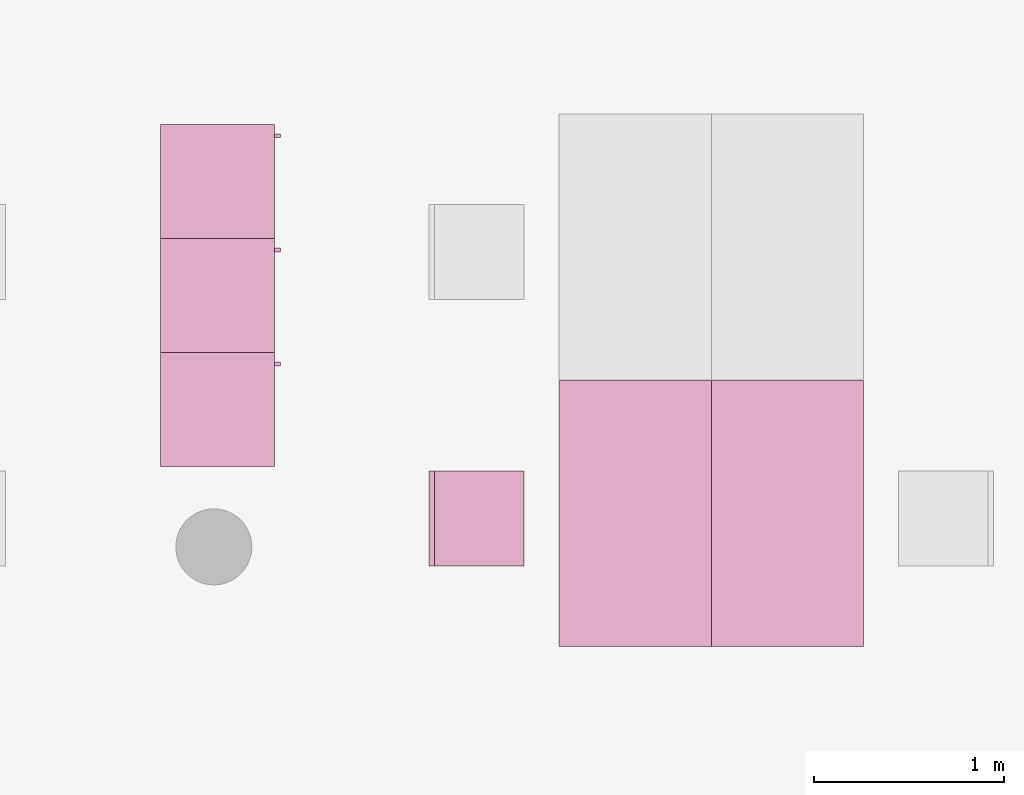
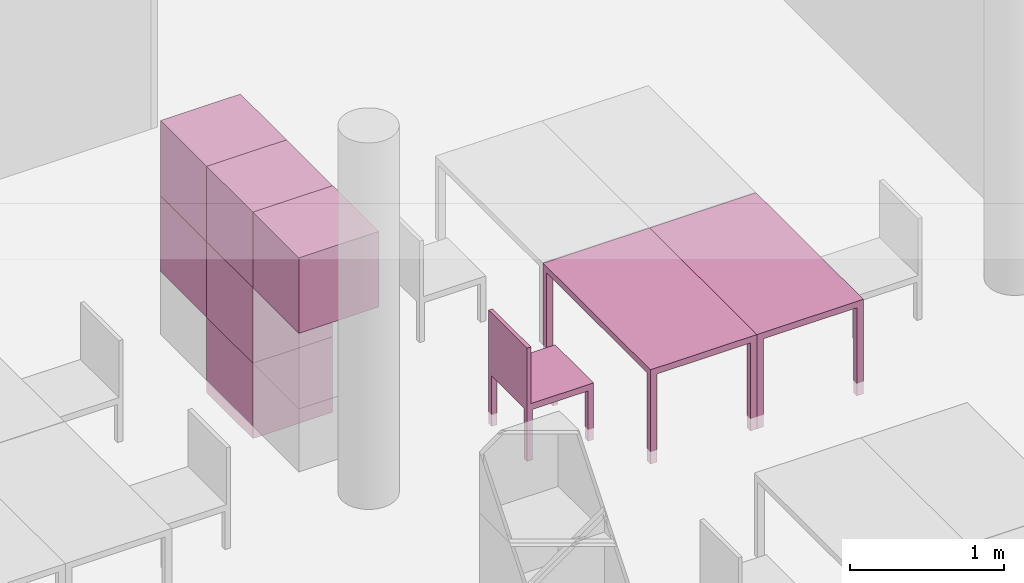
"""IFC4 building model written with IfcOpenShell, lengths in metres."""

from ifc_helpers import new_model, entity, si_unit, converted_unit, derived_unit, frame, origin, place, context, subcontext, project, spatial, faceted_brep, element, save


model = new_model("IFC4")

# Units and contexts
model_context = context("Model", 3, precision=1e-05, world=origin())
body_context = subcontext(model_context, "Body", "Model", "MODEL_VIEW")
ifc_project = project(units=[si_unit("LENGTHUNIT", "METRE"), si_unit("AREAUNIT", "SQUARE_METRE"), si_unit("VOLUMEUNIT", "CUBIC_METRE"), si_unit("MASSUNIT", "GRAM", prefix="KILO"), converted_unit("PLANEANGLEUNIT", "DEGREE", entity("IfcPlaneAngleMeasure", 0.0174532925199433), si_unit("PLANEANGLEUNIT", "RADIAN"), dimensions=[0, 0, 0, 0, 0, 0, 0]), derived_unit("THERMALTRANSMITTANCEUNIT", [(si_unit("POWERUNIT", "WATT"), 1), (si_unit("THERMODYNAMICTEMPERATUREUNIT", "KELVIN"), -1), (si_unit("LENGTHUNIT", "METRE"), -2)]), derived_unit("VOLUMETRICFLOWRATEUNIT", [(si_unit("LENGTHUNIT", "METRE"), 3), (converted_unit("TIMEUNIT", "hour", entity("IfcTimeMeasure", 3600.0), si_unit("TIMEUNIT", "SECOND"), dimensions=[0, 0, 1, 0, 0, 0, 0]), -1), (si_unit("LENGTHUNIT", "METRE"), -1)])], contexts=[model_context])

# Building, storeys
building_placement = place(None, origin())
building = spatial("IfcBuilding", under=ifc_project, at=building_placement, Name="HABITATGE PLURIFAMILIAR", CompositionType="ELEMENT")
storey_1_placement = place(building_placement, frame((0.0, 0.0, 12.27)))
storey_1 = spatial("IfcBuildingStorey", under=building, at=storey_1_placement, Name="PLANTA TERCERA", CompositionType="ELEMENT", Elevation=12.27)
storey_2_placement = place(storey_1_placement, frame((0.0, 0.0, 9.26)))
storey_2 = spatial("IfcBuildingStorey", under=storey_1, at=storey_2_placement, Name="NOU", CompositionType="PARTIAL")

# Furniture
furniture_1_placement = place(storey_2_placement, frame((418.75287675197, 17.2768712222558, -9.3599999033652)))
element("IfcFurniture", 1, at=furniture_1_placement, inside=storey_2, Name="Taula 140X80_P3", context=body_context, shape_type="Brep", body=[
    faceted_brep([(0.05, 0.0437500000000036, 0.0), (0.0, 0.04375, 0.0), (0.0, 0.0, 0.0), (0.05, 0.0, 0.0), (0.0, 0.04375, 0.7), (0.05, 0.0437500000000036, 0.7), (0.05, 0.0, 0.7), (0.0, 0.0, 0.7)], [[[0, 1, 2, 3]], [[4, 5, 6, 7]], [[1, 0, 5, 4]], [[2, 1, 4, 7]], [[3, 2, 7, 6]], [[0, 3, 6, 5]]], orient=[[False], [False], [False], [False], [False], [False]]),
    faceted_brep([(0.800069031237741, 0.0437500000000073, 0.0), (0.750069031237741, 0.0437500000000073, 0.0), (0.750069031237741, 0.0, 0.0), (0.800069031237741, 0.0, 0.0), (0.750069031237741, 0.0437500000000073, 0.7), (0.800069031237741, 0.0437500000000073, 0.7), (0.800069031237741, 0.0, 0.7), (0.750069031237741, 0.0, 0.7)], [[[0, 1, 2, 3]], [[4, 5, 6, 7]], [[1, 0, 5, 4]], [[2, 1, 4, 7]], [[3, 2, 7, 6]], [[0, 3, 6, 5]]], orient=[[False], [False], [False], [False], [False], [False]]),
    faceted_brep([(0.800069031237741, 1.39732768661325, 0.7), (0.0, 1.39732768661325, 0.7), (0.0, 0.0, 0.7), (0.800069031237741, 0.0, 0.7), (0.0, 1.39732768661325, 0.75), (0.800069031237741, 1.39732768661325, 0.75), (0.800069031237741, 0.0, 0.75), (0.0, 0.0, 0.75)], [[[0, 1, 2, 3]], [[4, 5, 6, 7]], [[1, 0, 5, 4]], [[2, 1, 4, 7]], [[3, 2, 7, 6]], [[0, 3, 6, 5]]], orient=[[False], [False], [False], [False], [False], [False]]),
    faceted_brep([(0.05, 1.39732768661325, 0.0), (0.0, 1.39732768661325, 0.0), (0.0, 1.35357768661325, 0.0), (0.05, 1.35357768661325, 0.0), (0.0, 1.39732768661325, 0.7), (0.05, 1.39732768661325, 0.7), (0.05, 1.35357768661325, 0.7), (0.0, 1.35357768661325, 0.7)], [[[0, 1, 2, 3]], [[4, 5, 6, 7]], [[1, 0, 5, 4]], [[2, 1, 4, 7]], [[3, 2, 7, 6]], [[0, 3, 6, 5]]], orient=[[False], [False], [False], [False], [False], [False]]),
    faceted_brep([(0.800069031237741, 1.39732768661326, 0.0), (0.750069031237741, 1.39732768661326, 0.0), (0.750069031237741, 1.35357768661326, 0.0), (0.800069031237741, 1.35357768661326, 0.0), (0.750069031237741, 1.39732768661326, 0.7), (0.800069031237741, 1.39732768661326, 0.7), (0.800069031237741, 1.35357768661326, 0.7), (0.750069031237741, 1.35357768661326, 0.7)], [[[0, 1, 2, 3]], [[4, 5, 6, 7]], [[1, 0, 5, 4]], [[2, 1, 4, 7]], [[3, 2, 7, 6]], [[0, 3, 6, 5]]], orient=[[False], [False], [False], [False], [False], [False]]),
])
furniture_2_placement = place(storey_2_placement, frame((417.952807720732, 17.2768712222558, -9.3599999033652)))
element("IfcFurniture", 2, at=furniture_2_placement, inside=storey_2, Name="Taula 140X80_P3", context=body_context, shape_type="Brep", body=[
    faceted_brep([(0.750069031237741, 0.04375, 0.0), (0.750069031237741, 0.0, 0.0), (0.800069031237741, 0.0, 0.0), (0.800069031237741, 0.04375, 0.0), (0.800069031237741, 0.04375, 0.7), (0.800069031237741, 0.0, 0.7), (0.750069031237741, 0.0, 0.7), (0.750069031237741, 0.04375, 0.7)], [[[0, 1, 2, 3]], [[4, 5, 6, 7]], [[3, 4, 7, 0]], [[2, 5, 4, 3]], [[1, 6, 5, 2]], [[0, 7, 6, 1]]], orient=[[False], [False], [False], [False], [False], [False]]),
    faceted_brep([(0.0, 0.0437500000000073, 0.0), (0.0, 0.0, 0.0), (0.05, 0.0, 0.0), (0.05, 0.0437500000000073, 0.0), (0.05, 0.0437500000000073, 0.7), (0.05, 0.0, 0.7), (0.0, 0.0, 0.7), (0.0, 0.0437500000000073, 0.7)], [[[0, 1, 2, 3]], [[4, 5, 6, 7]], [[3, 4, 7, 0]], [[2, 5, 4, 3]], [[1, 6, 5, 2]], [[0, 7, 6, 1]]], orient=[[False], [False], [False], [False], [False], [False]]),
    faceted_brep([(0.0, 1.39732768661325, 0.7), (0.0, 0.0, 0.7), (0.800069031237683, 0.0, 0.7), (0.800069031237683, 1.39732768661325, 0.7), (0.800069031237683, 1.39732768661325, 0.75), (0.800069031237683, 0.0, 0.75), (0.0, 0.0, 0.75), (0.0, 1.39732768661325, 0.75)], [[[0, 1, 2, 3]], [[4, 5, 6, 7]], [[3, 4, 7, 0]], [[2, 5, 4, 3]], [[1, 6, 5, 2]], [[0, 7, 6, 1]]], orient=[[False], [False], [False], [False], [False], [False]]),
    faceted_brep([(0.750069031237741, 1.39732768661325, 0.0), (0.750069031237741, 1.35357768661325, 0.0), (0.800069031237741, 1.35357768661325, 0.0), (0.800069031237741, 1.39732768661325, 0.0), (0.800069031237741, 1.39732768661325, 0.7), (0.800069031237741, 1.35357768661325, 0.7), (0.750069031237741, 1.35357768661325, 0.7), (0.750069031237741, 1.39732768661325, 0.7)], [[[0, 1, 2, 3]], [[4, 5, 6, 7]], [[3, 4, 7, 0]], [[2, 5, 4, 3]], [[1, 6, 5, 2]], [[0, 7, 6, 1]]], orient=[[False], [False], [False], [False], [False], [False]]),
    faceted_brep([(0.0, 1.39732768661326, 0.0), (0.0, 1.35357768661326, 0.0), (0.05, 1.35357768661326, 0.0), (0.05, 1.39732768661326, 0.0), (0.05, 1.39732768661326, 0.7), (0.05, 1.35357768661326, 0.7), (0.0, 1.35357768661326, 0.7), (0.0, 1.39732768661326, 0.7)], [[[0, 1, 2, 3]], [[4, 5, 6, 7]], [[3, 4, 7, 0]], [[2, 5, 4, 3]], [[1, 6, 5, 2]], [[0, 7, 6, 1]]], orient=[[False], [False], [False], [False], [False], [False]]),
])
furniture_3_placement = place(storey_2_placement, frame((415.856984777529, 18.8211705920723, -9.3599999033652)))
element("IfcFurniture", 3, at=furniture_3_placement, inside=storey_2, Name="Armai 60x60x60_P3", context=body_context, shape_type="Brep", body=[
    faceted_brep([(0.6, 0.600000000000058, 0.02), (0.6, 0.600000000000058, 0.0), (0.6, 0.0, 0.0), (0.6, 0.0, 0.02), (0.0, 0.0, 0.0), (0.0, 0.0, 0.02), (0.0, 0.600000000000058, 0.0), (0.0, 0.600000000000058, 0.02)], [[[0, 1, 2, 3]], [[3, 2, 4, 5]], [[5, 4, 6, 7]], [[7, 6, 1, 0]], [[0, 3, 5, 7]], [[1, 6, 4, 2]]], orient=[[False], [False], [False], [False], [False], [False]]),
    faceted_brep([(0.0, 0.02, 0.58), (0.0200000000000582, 0.02, 0.58), (0.0200000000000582, 0.02, 0.02), (0.0, 0.02, 0.02), (0.0200000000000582, 0.58, 0.02), (0.0, 0.58, 0.02), (0.0200000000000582, 0.58, 0.58), (0.0, 0.58, 0.58)], [[[0, 1, 2, 3]], [[3, 2, 4, 5]], [[5, 4, 6, 7]], [[7, 6, 1, 0]], [[0, 3, 5, 7]], [[1, 6, 4, 2]]], orient=[[False], [False], [False], [False], [False], [False]]),
    faceted_brep([(0.6, 0.58, 0.58), (0.6, 0.6, 0.58), (0.6, 0.6, 0.02), (0.6, 0.58, 0.02), (0.0, 0.6, 0.02), (0.0, 0.58, 0.02), (0.0, 0.6, 0.58), (0.0, 0.58, 0.58)], [[[0, 1, 2, 3]], [[3, 2, 4, 5]], [[5, 4, 6, 7]], [[7, 6, 1, 0]], [[0, 3, 5, 7]], [[1, 6, 4, 2]]], orient=[[False], [False], [False], [False], [False], [False]]),
    faceted_brep([(0.58, 0.600000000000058, 0.58), (0.6, 0.600000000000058, 0.58), (0.6, 0.600000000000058, 0.02), (0.58, 0.600000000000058, 0.02), (0.6, 0.580000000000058, 0.02), (0.58, 0.580000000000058, 0.02), (0.6, 0.580000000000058, 0.58), (0.58, 0.580000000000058, 0.58)], [[[0, 1, 2, 3]], [[3, 2, 4, 5]], [[5, 4, 6, 7]], [[7, 6, 1, 0]], [[0, 3, 5, 7]], [[1, 6, 4, 2]]], orient=[[False], [False], [False], [False], [False], [False]]),
    faceted_brep([(0.6, 0.0, 0.58), (0.6, 0.0200000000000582, 0.58), (0.6, 0.0200000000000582, 0.02), (0.6, 0.0, 0.02), (0.0, 0.0200000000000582, 0.02), (0.0, 0.0, 0.02), (0.0, 0.0200000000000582, 0.58), (0.0, 0.0, 0.58)], [[[0, 1, 2, 3]], [[3, 2, 4, 5]], [[5, 4, 6, 7]], [[7, 6, 1, 0]], [[0, 3, 5, 7]], [[1, 6, 4, 2]]], orient=[[False], [False], [False], [False], [False], [False]]),
    faceted_brep([(0.600000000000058, 0.6, 0.6), (0.600000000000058, 0.6, 0.58), (0.600000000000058, 0.0, 0.58), (0.600000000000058, 0.0, 0.6), (0.0, 0.0, 0.58), (0.0, 0.0, 0.6), (0.0, 0.6, 0.58), (0.0, 0.6, 0.6)], [[[0, 1, 2, 3]], [[3, 2, 4, 5]], [[5, 4, 6, 7]], [[7, 6, 1, 0]], [[0, 3, 5, 7]], [[1, 6, 4, 2]]], orient=[[False], [False], [False], [False], [False], [False]]),
    faceted_brep([(0.580000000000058, 0.02, 0.58), (0.600000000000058, 0.02, 0.58), (0.600000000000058, 0.02, 0.02), (0.580000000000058, 0.02, 0.02), (0.600000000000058, 0.580000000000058, 0.02), (0.580000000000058, 0.580000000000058, 0.02), (0.600000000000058, 0.580000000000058, 0.58), (0.580000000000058, 0.580000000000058, 0.58)], [[[0, 1, 2, 3]], [[3, 2, 4, 5]], [[5, 4, 6, 7]], [[7, 6, 1, 0]], [[0, 3, 5, 7]], [[1, 6, 4, 2]]], orient=[[False], [False], [False], [False], [False], [False]]),
    faceted_brep([(0.600000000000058, 0.53, 0.358064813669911), (0.630000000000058, 0.53, 0.358064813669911), (0.630000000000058, 0.53, 0.258064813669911), (0.600000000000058, 0.53, 0.258064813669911), (0.630000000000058, 0.55, 0.258064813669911), (0.600000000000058, 0.55, 0.258064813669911), (0.630000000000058, 0.55, 0.358064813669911), (0.600000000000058, 0.55, 0.358064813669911)], [[[0, 1, 2, 3]], [[3, 2, 4, 5]], [[5, 4, 6, 7]], [[7, 6, 1, 0]], [[0, 3, 5, 7]], [[1, 6, 4, 2]]], orient=[[False], [False], [False], [False], [False], [False]]),
])
furniture_4_placement = place(storey_2_placement, frame((415.856984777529, 19.4211705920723, -8.7599999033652)))
element("IfcFurniture", 4, at=furniture_4_placement, inside=storey_2, Name="Armai 60x60x60_P3", context=body_context, shape_type="Brep", body=[
    faceted_brep([(0.6, 0.600000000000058, 0.02), (0.6, 0.600000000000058, 0.0), (0.6, 0.0, 0.0), (0.6, 0.0, 0.02), (0.0, 0.0, 0.0), (0.0, 0.0, 0.02), (0.0, 0.600000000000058, 0.0), (0.0, 0.600000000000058, 0.02)], [[[0, 1, 2, 3]], [[3, 2, 4, 5]], [[5, 4, 6, 7]], [[7, 6, 1, 0]], [[0, 3, 5, 7]], [[1, 6, 4, 2]]], orient=[[False], [False], [False], [False], [False], [False]]),
    faceted_brep([(0.0, 0.02, 0.58), (0.0200000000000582, 0.02, 0.58), (0.0200000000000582, 0.02, 0.02), (0.0, 0.02, 0.02), (0.0200000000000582, 0.58, 0.02), (0.0, 0.58, 0.02), (0.0200000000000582, 0.58, 0.58), (0.0, 0.58, 0.58)], [[[0, 1, 2, 3]], [[3, 2, 4, 5]], [[5, 4, 6, 7]], [[7, 6, 1, 0]], [[0, 3, 5, 7]], [[1, 6, 4, 2]]], orient=[[False], [False], [False], [False], [False], [False]]),
    faceted_brep([(0.6, 0.58, 0.58), (0.6, 0.6, 0.58), (0.6, 0.6, 0.02), (0.6, 0.58, 0.02), (0.0, 0.6, 0.02), (0.0, 0.58, 0.02), (0.0, 0.6, 0.58), (0.0, 0.58, 0.58)], [[[0, 1, 2, 3]], [[3, 2, 4, 5]], [[5, 4, 6, 7]], [[7, 6, 1, 0]], [[0, 3, 5, 7]], [[1, 6, 4, 2]]], orient=[[False], [False], [False], [False], [False], [False]]),
    faceted_brep([(0.58, 0.600000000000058, 0.58), (0.6, 0.600000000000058, 0.58), (0.6, 0.600000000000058, 0.02), (0.58, 0.600000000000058, 0.02), (0.6, 0.580000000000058, 0.02), (0.58, 0.580000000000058, 0.02), (0.6, 0.580000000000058, 0.58), (0.58, 0.580000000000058, 0.58)], [[[0, 1, 2, 3]], [[3, 2, 4, 5]], [[5, 4, 6, 7]], [[7, 6, 1, 0]], [[0, 3, 5, 7]], [[1, 6, 4, 2]]], orient=[[False], [False], [False], [False], [False], [False]]),
    faceted_brep([(0.6, 0.0, 0.58), (0.6, 0.0200000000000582, 0.58), (0.6, 0.0200000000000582, 0.02), (0.6, 0.0, 0.02), (0.0, 0.0200000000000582, 0.02), (0.0, 0.0, 0.02), (0.0, 0.0200000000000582, 0.58), (0.0, 0.0, 0.58)], [[[0, 1, 2, 3]], [[3, 2, 4, 5]], [[5, 4, 6, 7]], [[7, 6, 1, 0]], [[0, 3, 5, 7]], [[1, 6, 4, 2]]], orient=[[False], [False], [False], [False], [False], [False]]),
    faceted_brep([(0.600000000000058, 0.6, 0.6), (0.600000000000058, 0.6, 0.58), (0.600000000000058, 0.0, 0.58), (0.600000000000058, 0.0, 0.6), (0.0, 0.0, 0.58), (0.0, 0.0, 0.6), (0.0, 0.6, 0.58), (0.0, 0.6, 0.6)], [[[0, 1, 2, 3]], [[3, 2, 4, 5]], [[5, 4, 6, 7]], [[7, 6, 1, 0]], [[0, 3, 5, 7]], [[1, 6, 4, 2]]], orient=[[False], [False], [False], [False], [False], [False]]),
    faceted_brep([(0.580000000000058, 0.02, 0.58), (0.600000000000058, 0.02, 0.58), (0.600000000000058, 0.02, 0.02), (0.580000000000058, 0.02, 0.02), (0.600000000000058, 0.580000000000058, 0.02), (0.580000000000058, 0.580000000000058, 0.02), (0.600000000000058, 0.580000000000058, 0.58), (0.580000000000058, 0.580000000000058, 0.58)], [[[0, 1, 2, 3]], [[3, 2, 4, 5]], [[5, 4, 6, 7]], [[7, 6, 1, 0]], [[0, 3, 5, 7]], [[1, 6, 4, 2]]], orient=[[False], [False], [False], [False], [False], [False]]),
    faceted_brep([(0.600000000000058, 0.53, 0.358064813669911), (0.630000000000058, 0.53, 0.358064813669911), (0.630000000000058, 0.53, 0.258064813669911), (0.600000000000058, 0.53, 0.258064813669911), (0.630000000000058, 0.55, 0.258064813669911), (0.600000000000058, 0.55, 0.258064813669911), (0.630000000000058, 0.55, 0.358064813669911), (0.600000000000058, 0.55, 0.358064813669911)], [[[0, 1, 2, 3]], [[3, 2, 4, 5]], [[5, 4, 6, 7]], [[7, 6, 1, 0]], [[0, 3, 5, 7]], [[1, 6, 4, 2]]], orient=[[False], [False], [False], [False], [False], [False]]),
])
furniture_5_placement = place(storey_2_placement, frame((415.856984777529, 18.8211705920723, -8.7599999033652)))
element("IfcFurniture", 5, at=furniture_5_placement, inside=storey_2, Name="Armai 60x60x60_P3", context=body_context, shape_type="Brep", body=[
    faceted_brep([(0.6, 0.600000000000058, 0.02), (0.6, 0.600000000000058, 0.0), (0.6, 0.0, 0.0), (0.6, 0.0, 0.02), (0.0, 0.0, 0.0), (0.0, 0.0, 0.02), (0.0, 0.600000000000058, 0.0), (0.0, 0.600000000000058, 0.02)], [[[0, 1, 2, 3]], [[3, 2, 4, 5]], [[5, 4, 6, 7]], [[7, 6, 1, 0]], [[0, 3, 5, 7]], [[1, 6, 4, 2]]], orient=[[False], [False], [False], [False], [False], [False]]),
    faceted_brep([(0.0, 0.02, 0.58), (0.0200000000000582, 0.02, 0.58), (0.0200000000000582, 0.02, 0.02), (0.0, 0.02, 0.02), (0.0200000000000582, 0.58, 0.02), (0.0, 0.58, 0.02), (0.0200000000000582, 0.58, 0.58), (0.0, 0.58, 0.58)], [[[0, 1, 2, 3]], [[3, 2, 4, 5]], [[5, 4, 6, 7]], [[7, 6, 1, 0]], [[0, 3, 5, 7]], [[1, 6, 4, 2]]], orient=[[False], [False], [False], [False], [False], [False]]),
    faceted_brep([(0.6, 0.58, 0.58), (0.6, 0.6, 0.58), (0.6, 0.6, 0.02), (0.6, 0.58, 0.02), (0.0, 0.6, 0.02), (0.0, 0.58, 0.02), (0.0, 0.6, 0.58), (0.0, 0.58, 0.58)], [[[0, 1, 2, 3]], [[3, 2, 4, 5]], [[5, 4, 6, 7]], [[7, 6, 1, 0]], [[0, 3, 5, 7]], [[1, 6, 4, 2]]], orient=[[False], [False], [False], [False], [False], [False]]),
    faceted_brep([(0.58, 0.600000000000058, 0.58), (0.6, 0.600000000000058, 0.58), (0.6, 0.600000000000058, 0.02), (0.58, 0.600000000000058, 0.02), (0.6, 0.580000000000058, 0.02), (0.58, 0.580000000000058, 0.02), (0.6, 0.580000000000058, 0.58), (0.58, 0.580000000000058, 0.58)], [[[0, 1, 2, 3]], [[3, 2, 4, 5]], [[5, 4, 6, 7]], [[7, 6, 1, 0]], [[0, 3, 5, 7]], [[1, 6, 4, 2]]], orient=[[False], [False], [False], [False], [False], [False]]),
    faceted_brep([(0.6, 0.0, 0.58), (0.6, 0.0200000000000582, 0.58), (0.6, 0.0200000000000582, 0.02), (0.6, 0.0, 0.02), (0.0, 0.0200000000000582, 0.02), (0.0, 0.0, 0.02), (0.0, 0.0200000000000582, 0.58), (0.0, 0.0, 0.58)], [[[0, 1, 2, 3]], [[3, 2, 4, 5]], [[5, 4, 6, 7]], [[7, 6, 1, 0]], [[0, 3, 5, 7]], [[1, 6, 4, 2]]], orient=[[False], [False], [False], [False], [False], [False]]),
    faceted_brep([(0.600000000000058, 0.6, 0.6), (0.600000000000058, 0.6, 0.58), (0.600000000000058, 0.0, 0.58), (0.600000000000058, 0.0, 0.6), (0.0, 0.0, 0.58), (0.0, 0.0, 0.6), (0.0, 0.6, 0.58), (0.0, 0.6, 0.6)], [[[0, 1, 2, 3]], [[3, 2, 4, 5]], [[5, 4, 6, 7]], [[7, 6, 1, 0]], [[0, 3, 5, 7]], [[1, 6, 4, 2]]], orient=[[False], [False], [False], [False], [False], [False]]),
    faceted_brep([(0.580000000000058, 0.02, 0.58), (0.600000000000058, 0.02, 0.58), (0.600000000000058, 0.02, 0.02), (0.580000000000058, 0.02, 0.02), (0.600000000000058, 0.580000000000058, 0.02), (0.580000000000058, 0.580000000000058, 0.02), (0.600000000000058, 0.580000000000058, 0.58), (0.580000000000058, 0.580000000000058, 0.58)], [[[0, 1, 2, 3]], [[3, 2, 4, 5]], [[5, 4, 6, 7]], [[7, 6, 1, 0]], [[0, 3, 5, 7]], [[1, 6, 4, 2]]], orient=[[False], [False], [False], [False], [False], [False]]),
    faceted_brep([(0.600000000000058, 0.53, 0.358064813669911), (0.630000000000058, 0.53, 0.358064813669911), (0.630000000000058, 0.53, 0.258064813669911), (0.600000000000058, 0.53, 0.258064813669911), (0.630000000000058, 0.55, 0.258064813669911), (0.600000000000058, 0.55, 0.258064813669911), (0.630000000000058, 0.55, 0.358064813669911), (0.600000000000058, 0.55, 0.358064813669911)], [[[0, 1, 2, 3]], [[3, 2, 4, 5]], [[5, 4, 6, 7]], [[7, 6, 1, 0]], [[0, 3, 5, 7]], [[1, 6, 4, 2]]], orient=[[False], [False], [False], [False], [False], [False]]),
])
furniture_6_placement = place(storey_2_placement, frame((415.856984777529, 19.4211705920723, -8.1599999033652)))
element("IfcFurniture", 6, at=furniture_6_placement, inside=storey_2, Name="Armai 60x60x60_P3", context=body_context, shape_type="Brep", body=[
    faceted_brep([(0.6, 0.600000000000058, 0.02), (0.6, 0.600000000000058, 0.0), (0.6, 0.0, 0.0), (0.6, 0.0, 0.02), (0.0, 0.0, 0.0), (0.0, 0.0, 0.02), (0.0, 0.600000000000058, 0.0), (0.0, 0.600000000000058, 0.02)], [[[0, 1, 2, 3]], [[3, 2, 4, 5]], [[5, 4, 6, 7]], [[7, 6, 1, 0]], [[0, 3, 5, 7]], [[1, 6, 4, 2]]], orient=[[False], [False], [False], [False], [False], [False]]),
    faceted_brep([(0.0, 0.02, 0.58), (0.0200000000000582, 0.02, 0.58), (0.0200000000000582, 0.02, 0.02), (0.0, 0.02, 0.02), (0.0200000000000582, 0.58, 0.02), (0.0, 0.58, 0.02), (0.0200000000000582, 0.58, 0.58), (0.0, 0.58, 0.58)], [[[0, 1, 2, 3]], [[3, 2, 4, 5]], [[5, 4, 6, 7]], [[7, 6, 1, 0]], [[0, 3, 5, 7]], [[1, 6, 4, 2]]], orient=[[False], [False], [False], [False], [False], [False]]),
    faceted_brep([(0.6, 0.58, 0.58), (0.6, 0.6, 0.58), (0.6, 0.6, 0.02), (0.6, 0.58, 0.02), (0.0, 0.6, 0.02), (0.0, 0.58, 0.02), (0.0, 0.6, 0.58), (0.0, 0.58, 0.58)], [[[0, 1, 2, 3]], [[3, 2, 4, 5]], [[5, 4, 6, 7]], [[7, 6, 1, 0]], [[0, 3, 5, 7]], [[1, 6, 4, 2]]], orient=[[False], [False], [False], [False], [False], [False]]),
    faceted_brep([(0.58, 0.600000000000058, 0.58), (0.6, 0.600000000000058, 0.58), (0.6, 0.600000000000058, 0.02), (0.58, 0.600000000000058, 0.02), (0.6, 0.580000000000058, 0.02), (0.58, 0.580000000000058, 0.02), (0.6, 0.580000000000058, 0.58), (0.58, 0.580000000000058, 0.58)], [[[0, 1, 2, 3]], [[3, 2, 4, 5]], [[5, 4, 6, 7]], [[7, 6, 1, 0]], [[0, 3, 5, 7]], [[1, 6, 4, 2]]], orient=[[False], [False], [False], [False], [False], [False]]),
    faceted_brep([(0.6, 0.0, 0.58), (0.6, 0.0200000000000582, 0.58), (0.6, 0.0200000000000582, 0.02), (0.6, 0.0, 0.02), (0.0, 0.0200000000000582, 0.02), (0.0, 0.0, 0.02), (0.0, 0.0200000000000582, 0.58), (0.0, 0.0, 0.58)], [[[0, 1, 2, 3]], [[3, 2, 4, 5]], [[5, 4, 6, 7]], [[7, 6, 1, 0]], [[0, 3, 5, 7]], [[1, 6, 4, 2]]], orient=[[False], [False], [False], [False], [False], [False]]),
    faceted_brep([(0.600000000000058, 0.6, 0.6), (0.600000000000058, 0.6, 0.58), (0.600000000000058, 0.0, 0.58), (0.600000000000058, 0.0, 0.6), (0.0, 0.0, 0.58), (0.0, 0.0, 0.6), (0.0, 0.6, 0.58), (0.0, 0.6, 0.6)], [[[0, 1, 2, 3]], [[3, 2, 4, 5]], [[5, 4, 6, 7]], [[7, 6, 1, 0]], [[0, 3, 5, 7]], [[1, 6, 4, 2]]], orient=[[False], [False], [False], [False], [False], [False]]),
    faceted_brep([(0.580000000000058, 0.02, 0.58), (0.600000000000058, 0.02, 0.58), (0.600000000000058, 0.02, 0.02), (0.580000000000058, 0.02, 0.02), (0.600000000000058, 0.580000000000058, 0.02), (0.580000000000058, 0.580000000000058, 0.02), (0.600000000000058, 0.580000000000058, 0.58), (0.580000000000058, 0.580000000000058, 0.58)], [[[0, 1, 2, 3]], [[3, 2, 4, 5]], [[5, 4, 6, 7]], [[7, 6, 1, 0]], [[0, 3, 5, 7]], [[1, 6, 4, 2]]], orient=[[False], [False], [False], [False], [False], [False]]),
    faceted_brep([(0.600000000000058, 0.53, 0.358064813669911), (0.630000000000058, 0.53, 0.358064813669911), (0.630000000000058, 0.53, 0.258064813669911), (0.600000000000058, 0.53, 0.258064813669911), (0.630000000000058, 0.55, 0.258064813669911), (0.600000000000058, 0.55, 0.258064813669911), (0.630000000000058, 0.55, 0.358064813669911), (0.600000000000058, 0.55, 0.358064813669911)], [[[0, 1, 2, 3]], [[3, 2, 4, 5]], [[5, 4, 6, 7]], [[7, 6, 1, 0]], [[0, 3, 5, 7]], [[1, 6, 4, 2]]], orient=[[False], [False], [False], [False], [False], [False]]),
])
furniture_7_placement = place(storey_2_placement, frame((415.856984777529, 18.8211705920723, -8.1599999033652)))
element("IfcFurniture", 7, at=furniture_7_placement, inside=storey_2, Name="Armai 60x60x60_P3", context=body_context, shape_type="Brep", body=[
    faceted_brep([(0.6, 0.600000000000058, 0.02), (0.6, 0.600000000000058, 0.0), (0.6, 0.0, 0.0), (0.6, 0.0, 0.02), (0.0, 0.0, 0.0), (0.0, 0.0, 0.02), (0.0, 0.600000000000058, 0.0), (0.0, 0.600000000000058, 0.02)], [[[0, 1, 2, 3]], [[3, 2, 4, 5]], [[5, 4, 6, 7]], [[7, 6, 1, 0]], [[0, 3, 5, 7]], [[1, 6, 4, 2]]], orient=[[False], [False], [False], [False], [False], [False]]),
    faceted_brep([(0.0, 0.02, 0.58), (0.0200000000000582, 0.02, 0.58), (0.0200000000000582, 0.02, 0.02), (0.0, 0.02, 0.02), (0.0200000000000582, 0.58, 0.02), (0.0, 0.58, 0.02), (0.0200000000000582, 0.58, 0.58), (0.0, 0.58, 0.58)], [[[0, 1, 2, 3]], [[3, 2, 4, 5]], [[5, 4, 6, 7]], [[7, 6, 1, 0]], [[0, 3, 5, 7]], [[1, 6, 4, 2]]], orient=[[False], [False], [False], [False], [False], [False]]),
    faceted_brep([(0.6, 0.58, 0.58), (0.6, 0.6, 0.58), (0.6, 0.6, 0.02), (0.6, 0.58, 0.02), (0.0, 0.6, 0.02), (0.0, 0.58, 0.02), (0.0, 0.6, 0.58), (0.0, 0.58, 0.58)], [[[0, 1, 2, 3]], [[3, 2, 4, 5]], [[5, 4, 6, 7]], [[7, 6, 1, 0]], [[0, 3, 5, 7]], [[1, 6, 4, 2]]], orient=[[False], [False], [False], [False], [False], [False]]),
    faceted_brep([(0.58, 0.600000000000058, 0.58), (0.6, 0.600000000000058, 0.58), (0.6, 0.600000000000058, 0.02), (0.58, 0.600000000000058, 0.02), (0.6, 0.580000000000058, 0.02), (0.58, 0.580000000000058, 0.02), (0.6, 0.580000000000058, 0.58), (0.58, 0.580000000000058, 0.58)], [[[0, 1, 2, 3]], [[3, 2, 4, 5]], [[5, 4, 6, 7]], [[7, 6, 1, 0]], [[0, 3, 5, 7]], [[1, 6, 4, 2]]], orient=[[False], [False], [False], [False], [False], [False]]),
    faceted_brep([(0.6, 0.0, 0.58), (0.6, 0.0200000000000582, 0.58), (0.6, 0.0200000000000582, 0.02), (0.6, 0.0, 0.02), (0.0, 0.0200000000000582, 0.02), (0.0, 0.0, 0.02), (0.0, 0.0200000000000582, 0.58), (0.0, 0.0, 0.58)], [[[0, 1, 2, 3]], [[3, 2, 4, 5]], [[5, 4, 6, 7]], [[7, 6, 1, 0]], [[0, 3, 5, 7]], [[1, 6, 4, 2]]], orient=[[False], [False], [False], [False], [False], [False]]),
    faceted_brep([(0.600000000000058, 0.6, 0.6), (0.600000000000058, 0.6, 0.58), (0.600000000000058, 0.0, 0.58), (0.600000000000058, 0.0, 0.6), (0.0, 0.0, 0.58), (0.0, 0.0, 0.6), (0.0, 0.6, 0.58), (0.0, 0.6, 0.6)], [[[0, 1, 2, 3]], [[3, 2, 4, 5]], [[5, 4, 6, 7]], [[7, 6, 1, 0]], [[0, 3, 5, 7]], [[1, 6, 4, 2]]], orient=[[False], [False], [False], [False], [False], [False]]),
    faceted_brep([(0.580000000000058, 0.02, 0.58), (0.600000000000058, 0.02, 0.58), (0.600000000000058, 0.02, 0.02), (0.580000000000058, 0.02, 0.02), (0.600000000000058, 0.580000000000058, 0.02), (0.580000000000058, 0.580000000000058, 0.02), (0.600000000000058, 0.580000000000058, 0.58), (0.580000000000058, 0.580000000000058, 0.58)], [[[0, 1, 2, 3]], [[3, 2, 4, 5]], [[5, 4, 6, 7]], [[7, 6, 1, 0]], [[0, 3, 5, 7]], [[1, 6, 4, 2]]], orient=[[False], [False], [False], [False], [False], [False]]),
    faceted_brep([(0.600000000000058, 0.53, 0.358064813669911), (0.630000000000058, 0.53, 0.358064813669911), (0.630000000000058, 0.53, 0.258064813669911), (0.600000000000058, 0.53, 0.258064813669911), (0.630000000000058, 0.55, 0.258064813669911), (0.600000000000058, 0.55, 0.258064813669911), (0.630000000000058, 0.55, 0.358064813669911), (0.600000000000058, 0.55, 0.358064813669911)], [[[0, 1, 2, 3]], [[3, 2, 4, 5]], [[5, 4, 6, 7]], [[7, 6, 1, 0]], [[0, 3, 5, 7]], [[1, 6, 4, 2]]], orient=[[False], [False], [False], [False], [False], [False]]),
])
furniture_8_placement = place(storey_2_placement, frame((415.856984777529, 18.2211705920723, -8.1599999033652)))
element("IfcFurniture", 8, at=furniture_8_placement, inside=storey_2, Name="Armai 60x60x60_P3", context=body_context, shape_type="Brep", body=[
    faceted_brep([(0.6, 0.600000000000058, 0.02), (0.6, 0.600000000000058, 0.0), (0.6, 0.0, 0.0), (0.6, 0.0, 0.02), (0.0, 0.0, 0.0), (0.0, 0.0, 0.02), (0.0, 0.600000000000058, 0.0), (0.0, 0.600000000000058, 0.02)], [[[0, 1, 2, 3]], [[3, 2, 4, 5]], [[5, 4, 6, 7]], [[7, 6, 1, 0]], [[0, 3, 5, 7]], [[1, 6, 4, 2]]], orient=[[False], [False], [False], [False], [False], [False]]),
    faceted_brep([(0.0, 0.02, 0.58), (0.0200000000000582, 0.02, 0.58), (0.0200000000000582, 0.02, 0.02), (0.0, 0.02, 0.02), (0.0200000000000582, 0.58, 0.02), (0.0, 0.58, 0.02), (0.0200000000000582, 0.58, 0.58), (0.0, 0.58, 0.58)], [[[0, 1, 2, 3]], [[3, 2, 4, 5]], [[5, 4, 6, 7]], [[7, 6, 1, 0]], [[0, 3, 5, 7]], [[1, 6, 4, 2]]], orient=[[False], [False], [False], [False], [False], [False]]),
    faceted_brep([(0.6, 0.58, 0.58), (0.6, 0.6, 0.58), (0.6, 0.6, 0.02), (0.6, 0.58, 0.02), (0.0, 0.6, 0.02), (0.0, 0.58, 0.02), (0.0, 0.6, 0.58), (0.0, 0.58, 0.58)], [[[0, 1, 2, 3]], [[3, 2, 4, 5]], [[5, 4, 6, 7]], [[7, 6, 1, 0]], [[0, 3, 5, 7]], [[1, 6, 4, 2]]], orient=[[False], [False], [False], [False], [False], [False]]),
    faceted_brep([(0.58, 0.600000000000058, 0.58), (0.6, 0.600000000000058, 0.58), (0.6, 0.600000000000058, 0.02), (0.58, 0.600000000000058, 0.02), (0.6, 0.580000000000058, 0.02), (0.58, 0.580000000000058, 0.02), (0.6, 0.580000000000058, 0.58), (0.58, 0.580000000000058, 0.58)], [[[0, 1, 2, 3]], [[3, 2, 4, 5]], [[5, 4, 6, 7]], [[7, 6, 1, 0]], [[0, 3, 5, 7]], [[1, 6, 4, 2]]], orient=[[False], [False], [False], [False], [False], [False]]),
    faceted_brep([(0.6, 0.0, 0.58), (0.6, 0.0200000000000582, 0.58), (0.6, 0.0200000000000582, 0.02), (0.6, 0.0, 0.02), (0.0, 0.0200000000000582, 0.02), (0.0, 0.0, 0.02), (0.0, 0.0200000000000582, 0.58), (0.0, 0.0, 0.58)], [[[0, 1, 2, 3]], [[3, 2, 4, 5]], [[5, 4, 6, 7]], [[7, 6, 1, 0]], [[0, 3, 5, 7]], [[1, 6, 4, 2]]], orient=[[False], [False], [False], [False], [False], [False]]),
    faceted_brep([(0.600000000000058, 0.6, 0.6), (0.600000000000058, 0.6, 0.58), (0.600000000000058, 0.0, 0.58), (0.600000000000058, 0.0, 0.6), (0.0, 0.0, 0.58), (0.0, 0.0, 0.6), (0.0, 0.6, 0.58), (0.0, 0.6, 0.6)], [[[0, 1, 2, 3]], [[3, 2, 4, 5]], [[5, 4, 6, 7]], [[7, 6, 1, 0]], [[0, 3, 5, 7]], [[1, 6, 4, 2]]], orient=[[False], [False], [False], [False], [False], [False]]),
    faceted_brep([(0.580000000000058, 0.02, 0.58), (0.600000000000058, 0.02, 0.58), (0.600000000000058, 0.02, 0.02), (0.580000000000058, 0.02, 0.02), (0.600000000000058, 0.580000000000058, 0.02), (0.580000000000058, 0.580000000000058, 0.02), (0.600000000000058, 0.580000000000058, 0.58), (0.580000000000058, 0.580000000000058, 0.58)], [[[0, 1, 2, 3]], [[3, 2, 4, 5]], [[5, 4, 6, 7]], [[7, 6, 1, 0]], [[0, 3, 5, 7]], [[1, 6, 4, 2]]], orient=[[False], [False], [False], [False], [False], [False]]),
    faceted_brep([(0.600000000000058, 0.53, 0.358064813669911), (0.630000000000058, 0.53, 0.358064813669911), (0.630000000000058, 0.53, 0.258064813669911), (0.600000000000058, 0.53, 0.258064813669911), (0.630000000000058, 0.55, 0.258064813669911), (0.600000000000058, 0.55, 0.258064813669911), (0.630000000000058, 0.55, 0.358064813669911), (0.600000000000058, 0.55, 0.358064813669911)], [[[0, 1, 2, 3]], [[3, 2, 4, 5]], [[5, 4, 6, 7]], [[7, 6, 1, 0]], [[0, 3, 5, 7]], [[1, 6, 4, 2]]], orient=[[False], [False], [False], [False], [False], [False]]),
])
furniture_9_placement = place(storey_2_placement, frame((417.268665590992, 17.6980313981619, -9.3546338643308)))
element("IfcFurniture", 9, at=furniture_9_placement, inside=storey_2, Name="Cadira d'Oficina_P3", context=body_context, shape_type="Brep", body=[
    faceted_brep([(0.500000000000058, 0.5, 0.4), (0.0, 0.5, 0.4), (0.0, 0.0, 0.4), (0.500000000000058, 0.0, 0.4), (0.0, 0.5, 0.45), (0.500000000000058, 0.5, 0.45), (0.500000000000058, 0.0, 0.45), (0.0, 0.0, 0.45)], [[[0, 1, 2, 3]], [[4, 5, 6, 7]], [[1, 0, 5, 4]], [[2, 1, 4, 7]], [[3, 2, 7, 6]], [[0, 3, 6, 5]]], orient=[[False], [False], [False], [False], [False], [False]]),
    faceted_brep([(0.0400000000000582, 0.0, 0.0), (0.0400000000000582, 0.04, 0.0), (0.0, 0.04, 0.0), (0.0, 0.0, 0.0), (0.0400000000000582, 0.04, 0.4), (0.0400000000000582, 0.0, 0.4), (0.0, 0.0, 0.4), (0.0, 0.04, 0.4)], [[[0, 1, 2, 3]], [[4, 5, 6, 7]], [[1, 0, 5, 4]], [[2, 1, 4, 7]], [[3, 2, 7, 6]], [[0, 3, 6, 5]]], orient=[[False], [False], [False], [False], [False], [False]]),
    faceted_brep([(0.500000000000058, 0.0, 0.0), (0.500000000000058, 0.04, 0.0), (0.460000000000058, 0.04, 0.0), (0.460000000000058, 0.0, 0.0), (0.500000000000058, 0.04, 0.4), (0.500000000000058, 0.0, 0.4), (0.460000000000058, 0.0, 0.4), (0.460000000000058, 0.04, 0.4)], [[[0, 1, 2, 3]], [[4, 5, 6, 7]], [[1, 0, 5, 4]], [[2, 1, 4, 7]], [[3, 2, 7, 6]], [[0, 3, 6, 5]]], orient=[[False], [False], [False], [False], [False], [False]]),
    faceted_brep([(0.04, 0.46, 0.0), (0.04, 0.5, 0.0), (0.0, 0.5, 0.0), (0.0, 0.46, 0.0), (0.04, 0.5, 0.4), (0.04, 0.46, 0.4), (0.0, 0.46, 0.4), (0.0, 0.5, 0.4)], [[[0, 1, 2, 3]], [[4, 5, 6, 7]], [[1, 0, 5, 4]], [[2, 1, 4, 7]], [[3, 2, 7, 6]], [[0, 3, 6, 5]]], orient=[[False], [False], [False], [False], [False], [False]]),
    faceted_brep([(0.500000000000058, 0.46, 0.0), (0.500000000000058, 0.5, 0.0), (0.460000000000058, 0.5, 0.0), (0.460000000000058, 0.46, 0.0), (0.500000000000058, 0.5, 0.4), (0.500000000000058, 0.46, 0.4), (0.460000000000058, 0.46, 0.4), (0.460000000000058, 0.5, 0.4)], [[[0, 1, 2, 3]], [[4, 5, 6, 7]], [[1, 0, 5, 4]], [[2, 1, 4, 7]], [[3, 2, 7, 6]], [[0, 3, 6, 5]]], orient=[[False], [False], [False], [False], [False], [False]]),
    faceted_brep([(0.0300000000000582, 0.0, 0.45), (0.03, 0.5, 0.45), (0.0, 0.5, 0.45), (0.0, 0.0, 0.45), (0.03, 0.5, 0.9), (0.0300000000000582, 0.0, 0.9), (0.0, 0.0, 0.9), (0.0, 0.5, 0.9)], [[[0, 1, 2, 3]], [[4, 5, 6, 7]], [[1, 0, 5, 4]], [[2, 1, 4, 7]], [[3, 2, 7, 6]], [[0, 3, 6, 5]]], orient=[[False], [False], [False], [False], [False], [False]]),
])

save(model, "model.ifc")
